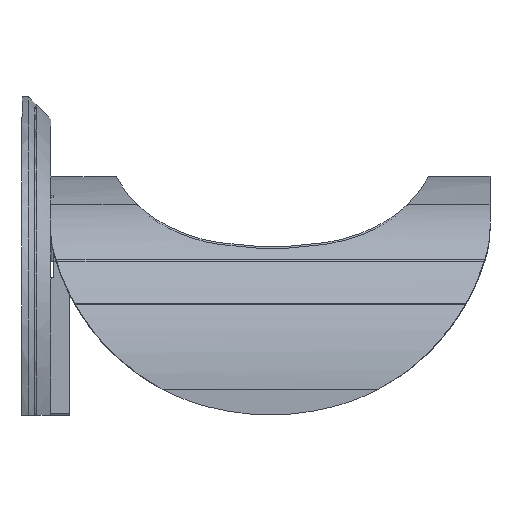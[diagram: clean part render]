
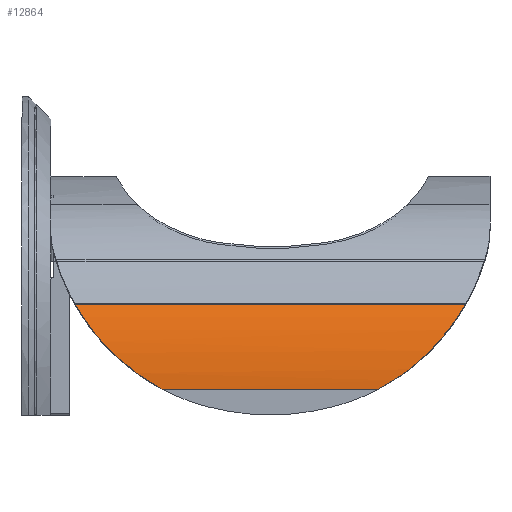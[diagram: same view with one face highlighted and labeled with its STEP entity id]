
A CAD part, left-side view. The second image highlights one B-rep face of the part: STEP entity #12864.
In plain terms, the highlighted cylindrical face has radius 320.879 mm (diameter 641.758 mm), a partial arc.
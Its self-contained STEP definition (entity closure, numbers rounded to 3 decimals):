
#66 = CARTESIAN_POINT ( 'NONE',  ( -480., 516.662, 40. ) ) ;
#136 = CARTESIAN_POINT ( 'NONE',  ( -478.789, 561.088, 67.916 ) ) ;
#816 = CARTESIAN_POINT ( 'NONE',  ( -461.481, 58.238, 147.685 ) ) ;
#872 = CARTESIAN_POINT ( 'NONE',  ( -476.82, 113.794, 85.239 ) ) ;
#877 = CARTESIAN_POINT ( 'NONE',  ( -463.815, 63.067, 140.866 ) ) ;
#1031 = EDGE_CURVE ( 'NONE', #1639, #1484, #2894, .T. ) ;
#1059 = CARTESIAN_POINT ( 'NONE',  ( -450., 724.5, 175.472 ) ) ;
#1273 = CARTESIAN_POINT ( 'NONE',  ( -450., 655.36, 175.472 ) ) ;
#1287 = CARTESIAN_POINT ( 'NONE',  ( -476.814, 582.622, 85.285 ) ) ;
#1346 = CARTESIAN_POINT ( 'NONE',  ( -479.334, 551.048, 60.734 ) ) ;
#1484 = VERTEX_POINT ( 'NONE', #9183 ) ;
#1639 = VERTEX_POINT ( 'NONE', #1273 ) ;
#1831 = CARTESIAN_POINT ( 'NONE',  ( -479.235, 142.837, 62.405 ) ) ;
#1898 = CARTESIAN_POINT ( 'NONE',  ( -473.502, 93.879, 104.288 ) ) ;
#1903 = CARTESIAN_POINT ( 'NONE',  ( -456.204, 49.171, 161.489 ) ) ;
#2083 = ORIENTED_EDGE ( 'NONE', *, *, #9346, .F. ) ;
#2174 = CARTESIAN_POINT ( 'NONE',  ( -479.215, 553.588, 62.498 ) ) ;
#2527 = CARTESIAN_POINT ( 'NONE',  ( -450., 41.005, 175.472 ) ) ;
#2529 = EDGE_CURVE ( 'NONE', #12393, #1639, #4772, .T. ) ;
#2894 = LINE ( 'NONE', #1059, #5304 ) ;
#2921 = CARTESIAN_POINT ( 'NONE',  ( -465.869, 68.182, 134.174 ) ) ;
#2988 = CARTESIAN_POINT ( 'NONE',  ( -473.942, 96.018, 102.095 ) ) ;
#3283 = EDGE_CURVE ( 'NONE', #1484, #12036, #11416, .T. ) ;
#3388 = ORIENTED_EDGE ( 'NONE', *, *, #12918, .F. ) ;
#3397 = CARTESIAN_POINT ( 'NONE',  ( -479.782, 538.149, 52.237 ) ) ;
#3697 = AXIS2_PLACEMENT_3D ( 'NONE', #11836, #9874, #6604 ) ;
#3939 = CARTESIAN_POINT ( 'NONE',  ( -476.214, 109.225, 89.328 ) ) ;
#4075 = CARTESIAN_POINT ( 'NONE',  ( -480., 168.749, 45.747 ) ) ;
#4133 = CARTESIAN_POINT ( 'NONE',  ( -465.869, 628.182, 134.174 ) ) ;
#4191 = ORIENTED_EDGE ( 'NONE', *, *, #9599, .T. ) ;
#4222 = CARTESIAN_POINT ( 'NONE',  ( -477.845, 573.248, 77.341 ) ) ;
#4349 = ORIENTED_EDGE ( 'NONE', *, *, #3283, .F. ) ;
#4772 = B_SPLINE_CURVE_WITH_KNOTS ( 'NONE', 3,
 ( #4133, #11406, #10401, #12564, #7401, #6184 ),
 .UNSPECIFIED., .F., .F.,
 ( 4, 2, 4 ),
 ( 0., 0.026, 0.052 ),
 .UNSPECIFIED. ) ;
#4830 = CARTESIAN_POINT ( 'NONE',  ( -472.094, 87.566, 110.936 ) ) ;
#4895 = CARTESIAN_POINT ( 'NONE',  ( -468.659, 75.63, 124.691 ) ) ;
#5099 = CARTESIAN_POINT ( 'NONE',  ( -477.85, 123.167, 77.299 ) ) ;
#5243 = CARTESIAN_POINT ( 'NONE',  ( -479.642, 543.363, 55.549 ) ) ;
#5304 = VECTOR ( 'NONE', #8141, 1000. ) ;
#5313 = CARTESIAN_POINT ( 'NONE',  ( -473.956, 600.46, 102.152 ) ) ;
#5393 = CARTESIAN_POINT ( 'NONE',  ( -465.869, 68.182, 134.174 ) ) ;
#5505 = CARTESIAN_POINT ( 'NONE',  ( -478.269, 568.451, 73.494 ) ) ;
#6051 = CARTESIAN_POINT ( 'NONE',  ( -478.274, 127.972, 73.449 ) ) ;
#6184 = CARTESIAN_POINT ( 'NONE',  ( -450., 655.36, 175.472 ) ) ;
#6472 = CARTESIAN_POINT ( 'NONE',  ( -479.961, 527.539, 45.9 ) ) ;
#6604 = DIRECTION ( 'NONE',  ( 0., 0., -1. ) ) ;
#6678 = CARTESIAN_POINT ( 'NONE',  ( -453.262, 44.937, 168.468 ) ) ;
#6883 = CYLINDRICAL_SURFACE ( 'NONE', #3697, 320.879 ) ;
#6990 = DIRECTION ( 'NONE',  ( 0., -1., 0. ) ) ;
#7013 = CARTESIAN_POINT ( 'NONE',  ( -479.847, 158.164, 52.07 ) ) ;
#7401 = CARTESIAN_POINT ( 'NONE',  ( -453.262, 651.427, 168.468 ) ) ;
#7973 = ORIENTED_EDGE ( 'NONE', *, *, #1031, .F. ) ;
#8141 = DIRECTION ( 'NONE',  ( 0., -1., 0. ) ) ;
#8375 = CARTESIAN_POINT ( 'NONE',  ( -476.206, 587.199, 89.382 ) ) ;
#8397 = CARTESIAN_POINT ( 'NONE',  ( -465.869, 628.182, 134.174 ) ) ;
#8445 = CARTESIAN_POINT ( 'NONE',  ( -480., 522.14, 42.874 ) ) ;
#8507 = CARTESIAN_POINT ( 'NONE',  ( -471.145, 613.037, 115.405 ) ) ;
#8771 = ORIENTED_EDGE ( 'NONE', *, *, #2529, .F. ) ;
#9054 = CARTESIAN_POINT ( 'NONE',  ( -475.147, 102.548, 95.638 ) ) ;
#9174 = CARTESIAN_POINT ( 'NONE',  ( -480., 516.662, 40. ) ) ;
#9183 = CARTESIAN_POINT ( 'NONE',  ( -450., 41.005, 175.472 ) ) ;
#9346 = EDGE_CURVE ( 'NONE', #10654, #12393, #11048, .T. ) ;
#9399 = CARTESIAN_POINT ( 'NONE',  ( -478.943, 558.607, 66.089 ) ) ;
#9599 = EDGE_CURVE ( 'NONE', #10654, #10411, #9845, .T. ) ;
#9845 = LINE ( 'NONE', #11064, #11036 ) ;
#9874 = DIRECTION ( 'NONE',  ( 0., -1., 0. ) ) ;
#10012 = CARTESIAN_POINT ( 'NONE',  ( -474.764, 100.351, 97.771 ) ) ;
#10076 = CARTESIAN_POINT ( 'NONE',  ( -467.336, 71.833, 129.398 ) ) ;
#10204 = CARTESIAN_POINT ( 'NONE',  ( -480., 179.703, 40. ) ) ;
#10401 = CARTESIAN_POINT ( 'NONE',  ( -461.481, 638.127, 147.686 ) ) ;
#10411 = VERTEX_POINT ( 'NONE', #10933 ) ;
#10483 = CARTESIAN_POINT ( 'NONE',  ( -468.803, 620.879, 124.618 ) ) ;
#10654 = VERTEX_POINT ( 'NONE', #9174 ) ;
#10933 = CARTESIAN_POINT ( 'NONE',  ( -480., 179.703, 40. ) ) ;
#11036 = VECTOR ( 'NONE', #6990, 1000. ) ;
#11048 = B_SPLINE_CURVE_WITH_KNOTS ( 'NONE', 3,
 ( #66, #8445, #6472, #3397, #5243, #1346, #2174, #9399, #136, #5505, #4222, #1287, #8375, #12515, #5313, #8507, #10483, #12581 ),
 .UNSPECIFIED., .F., .F.,
 ( 4, 2, 2, 2, 2, 2, 2, 2, 4 ),
 ( 0., 0.019, 0.037, 0.046, 0.056, 0.074, 0.093, 0.111, 0.148 ),
 .UNSPECIFIED. ) ;
#11064 = CARTESIAN_POINT ( 'NONE',  ( -480., 724.5, 40. ) ) ;
#11082 = EDGE_LOOP ( 'NONE', ( #8771, #2083, #4191, #3388, #4349, #7973 ) ) ;
#11215 = CARTESIAN_POINT ( 'NONE',  ( -465.869, 68.182, 134.174 ) ) ;
#11406 = CARTESIAN_POINT ( 'NONE',  ( -463.815, 633.297, 140.866 ) ) ;
#11416 = B_SPLINE_CURVE_WITH_KNOTS ( 'NONE', 3,
 ( #2527, #6678, #1903, #816, #877, #2921 ),
 .UNSPECIFIED., .F., .F.,
 ( 4, 2, 4 ),
 ( 0., 0.026, 0.052 ),
 .UNSPECIFIED. ) ;
#11836 = CARTESIAN_POINT ( 'NONE',  ( -159.121, 724.5, 40. ) ) ;
#12036 = VERTEX_POINT ( 'NONE', #5393 ) ;
#12108 = CARTESIAN_POINT ( 'NONE',  ( -471.037, 83.496, 115.462 ) ) ;
#12393 = VERTEX_POINT ( 'NONE', #8397 ) ;
#12515 = CARTESIAN_POINT ( 'NONE',  ( -474.775, 596.129, 97.827 ) ) ;
#12564 = CARTESIAN_POINT ( 'NONE',  ( -456.204, 647.193, 161.489 ) ) ;
#12581 = CARTESIAN_POINT ( 'NONE',  ( -465.869, 628.182, 134.174 ) ) ;
#12757 = B_SPLINE_CURVE_WITH_KNOTS ( 'NONE', 3,
 ( #11215, #10076, #4895, #12108, #4830, #1898, #2988, #10012, #9054, #3939, #872, #5099, #6051, #13123, #1831, #7013, #4075, #10204 ),
 .UNSPECIFIED., .F., .F.,
 ( 4, 2, 2, 2, 2, 2, 2, 2, 4 ),
 ( 0., 0.019, 0.037, 0.046, 0.056, 0.074, 0.093, 0.111, 0.148 ),
 .UNSPECIFIED. ) ;
#12864 = ADVANCED_FACE ( 'NONE', ( #13051 ), #6883, .T. ) ;
#12918 = EDGE_CURVE ( 'NONE', #12036, #10411, #12757, .T. ) ;
#13051 = FACE_OUTER_BOUND ( 'NONE', #11082, .T. ) ;
#13123 = CARTESIAN_POINT ( 'NONE',  ( -478.967, 137.818, 65.993 ) ) ;
